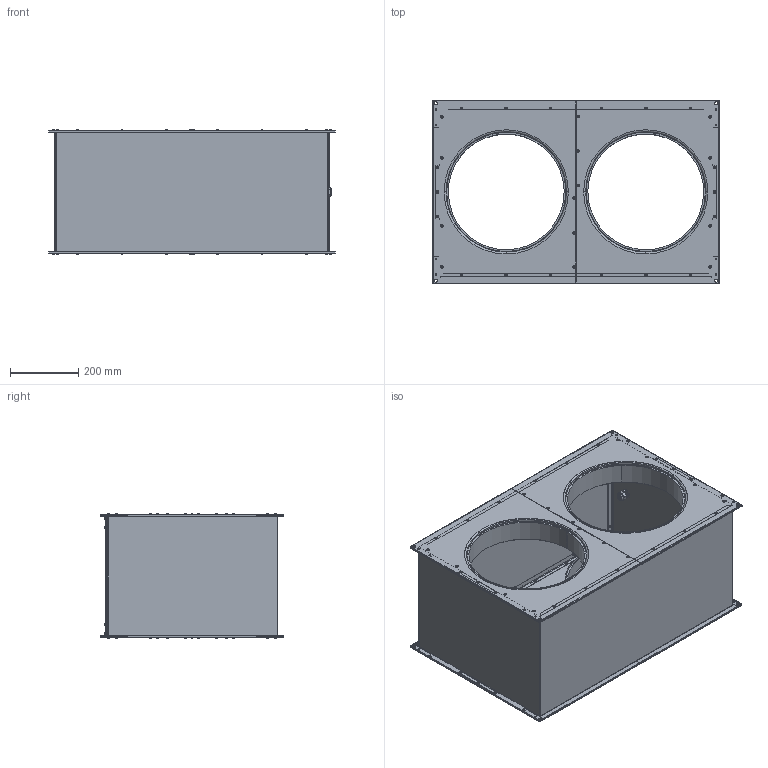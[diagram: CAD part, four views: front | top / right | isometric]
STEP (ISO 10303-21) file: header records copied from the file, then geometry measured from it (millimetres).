
FILE_DESCRIPTION (( 'STEP AP203' ), '1' );
FILE_NAME ('136749-00_EMKI8050EC22.STEP', '2016-04-20T06:23:35', ( '' ), ( '' ), 'SwSTEP 2.0', 'SolidWorks 2012', '' );
FILE_SCHEMA (( 'CONFIG_CONTROL_DESIGN' ));
Length unit declared in the file: millimetre
Products named in the file (1): 136749-00_EMKI8050EC22
Bounding box: 838.5 x 538 x 364.2 mm (x, y, z)
Surface area: 4248343.4 mm2 (no closed solid volume)
Topology: 0 solids, 169 shells, 854 faces, 3048 edges, 2236 vertices
Faces by surface type: cylinder 411, torus 216, plane 200, cone 19, bspline 8
Entity records: 34583 total; most frequent: CARTESIAN_POINT 7733, DIRECTION 6318, ORIENTED_EDGE 4318, EDGE_CURVE 3032, AXIS2_PLACEMENT_3D 2649, VERTEX_POINT 2236, CIRCLE 1802, EDGE_LOOP 1144
